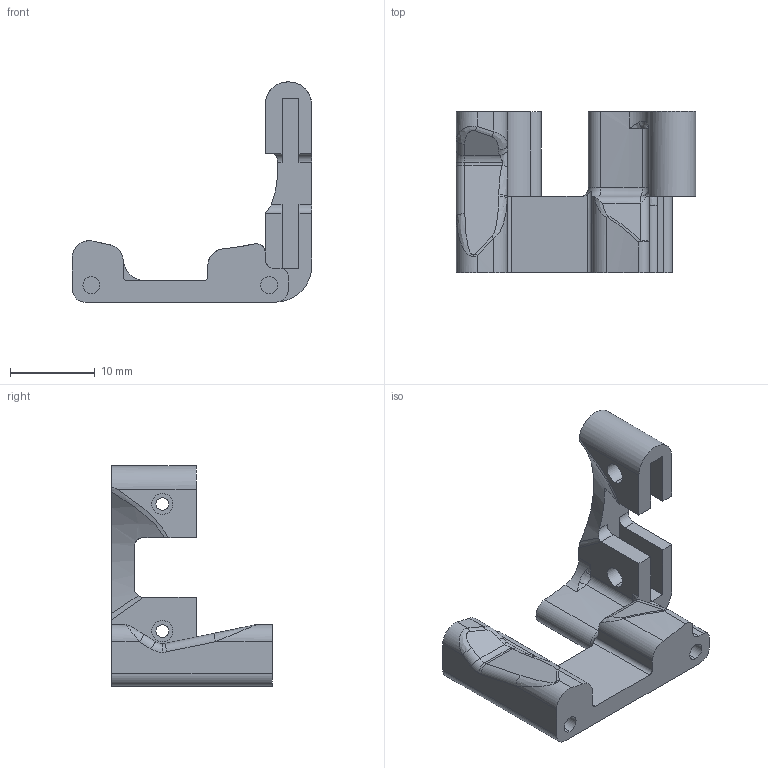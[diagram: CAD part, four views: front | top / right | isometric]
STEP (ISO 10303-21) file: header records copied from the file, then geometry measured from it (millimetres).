
FILE_DESCRIPTION (( 'STEP AP203' ), '1' );
FILE_NAME ('CAMTILT-RASBPI2-CAMERA-MOUNT-R1.STEP', '2016-09-07T19:56:37', ( '' ), ( '' ), 'SwSTEP 2.0', 'SolidWorks 2014', '' );
FILE_SCHEMA (( 'CONFIG_CONTROL_DESIGN' ));
Length unit declared in the file: millimetre
Products named in the file (1): CAMTILT-RASBPI2-CAMERA-MOUNT-R1
Bounding box: 28.25 x 19 x 26 mm (x, y, z)
Volume: 2497.2 mm3; surface area: 2331.4 mm2
Topology: 1 solids, 1 shells, 110 faces, 289 edges, 179 vertices
Faces by surface type: cylinder 46, plane 36, bspline 21, torus 4, sphere 2, cone 1
Entity records: 3883 total; most frequent: CARTESIAN_POINT 1232, ORIENTED_EDGE 570, DIRECTION 513, EDGE_CURVE 285, AXIS2_PLACEMENT_3D 192, VERTEX_POINT 179, VECTOR 129, LINE 129
